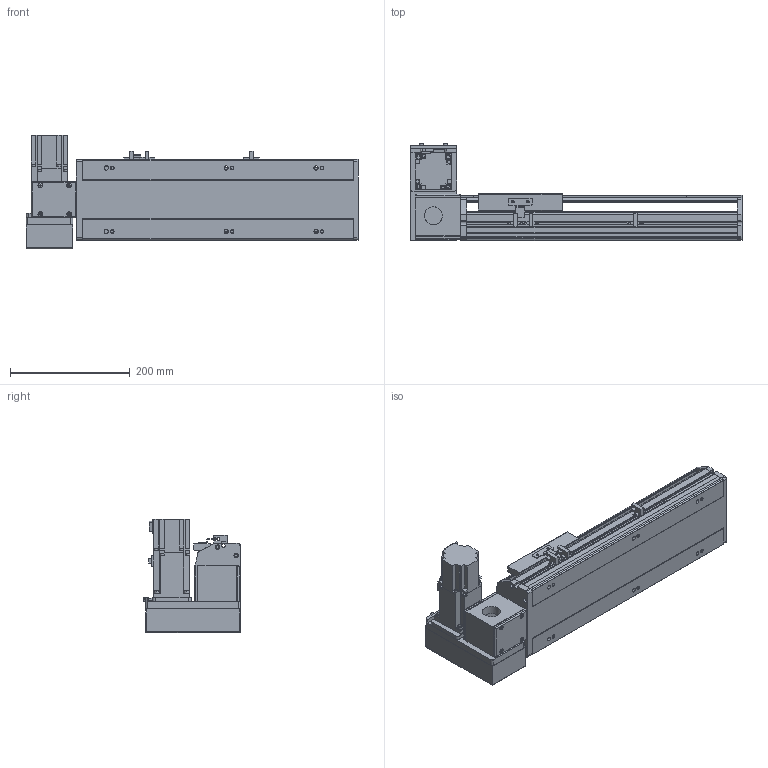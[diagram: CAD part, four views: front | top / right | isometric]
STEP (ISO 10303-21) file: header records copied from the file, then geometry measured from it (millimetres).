
FILE_DESCRIPTION( ( 'STEP AP214' ), '1' );
FILE_NAME( 'x:/temp/worker_2/temp/exporttempdir_6476_463_WFMtB/format_0/PBS140-P40-S200-LU-T40-C1-N(0).stp', '2022-06-07T05:15:42', ( 'License CC BY-ND 4.0' ), ( 'CADENAS' ), ' ', 'PARTsolutions', ' ' );
FILE_SCHEMA( ( 'AUTOMOTIVE_DESIGN { 1 0 10303 214 1 1 1 1 }' ) );
Length unit declared in the file: millimetre
Products named in the file (7): PBS140-P40-S200-LU-T40-C1-N(0); _PBS140-S200()_body; _PBS140T-LU_motors; _T40-p1; _PBS140_sliser; _PBS140_plant; _PBS140_sensor
Assembly tree (8 placements, depth 2):
  PBS140-P40-S200-LU-T40-C1-N(0)
    _PBS140-S200()_body
    _PBS140T-LU_motors
    _T40-p1
    _PBS140_sliser
    _PBS140_plant
    _PBS140_sensor  x3
Bounding box: 554 x 162.5 x 189.7 mm (x, y, z)
Volume: 3160031.1 mm3; surface area: 584646.5 mm2
Topology: 8 solids, 8 shells, 995 faces, 2636 edges, 1723 vertices
Faces by surface type: plane 662, cylinder 291, cone 32, sphere 8, torus 2
Full cylindrical faces by diameter (mm): 3.242 x4, 4 x2, 4.134 x4, 4.4 x8, 4.5 x2, 4.8 x4, 4.917 x14, 5.5 x7, 6 x2, 7 x8, 7.5 x8, 8 x12, 8.5 x4, 10.5 x6, 14 x1, 30 x2, 50 x2
Entity records: 36079 total; most frequent: CARTESIAN_POINT 5411, DIRECTION 4847, ORIENTED_EDGE 4612, EDGE_CURVE 2306, AXIS2_PLACEMENT_3D 1657, VERTEX_POINT 1581, LINE 1533, VECTOR 1533
